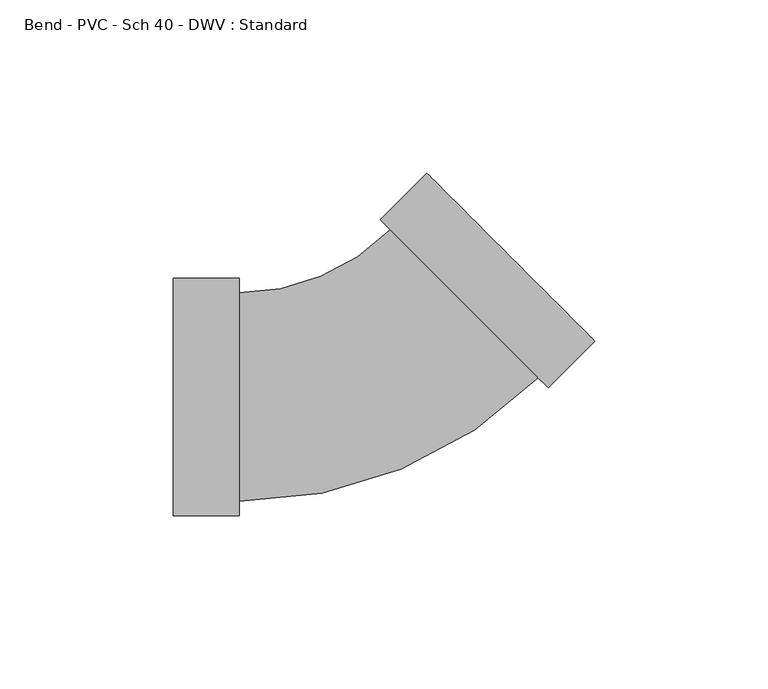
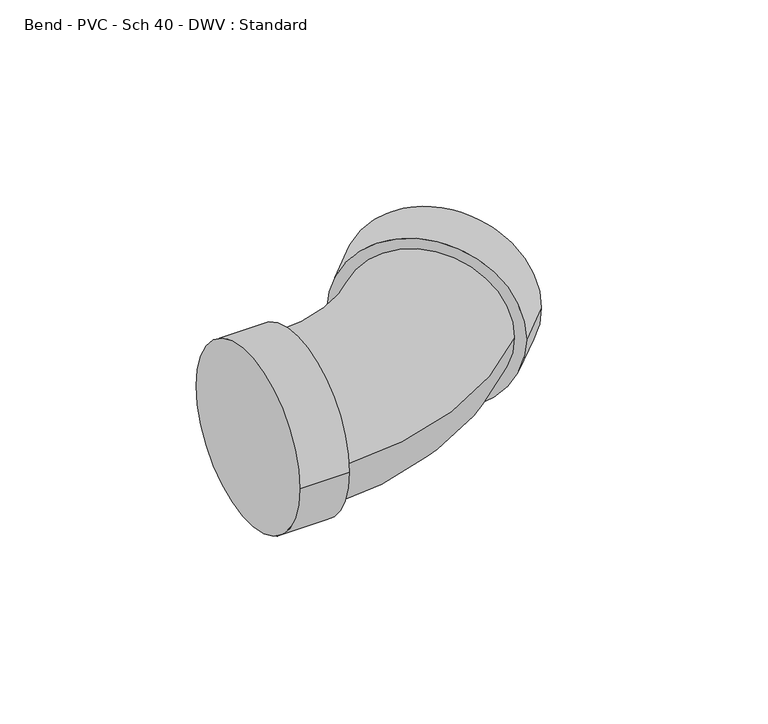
"""IFC4 building model written with IfcOpenShell, lengths in millimetres: pipe fitting geometry, Bend - PVC - Sch 40 - DWV : Standard."""

from ifc_helpers import new_model, si_unit, point, frame, origin, place, context, project, spatial, circle_curve, ellipse_curve, trimmed, source, transform, mapped, element, save
from ifc_brep_helpers import plane_surface, cylinder_surface, revolved_surface, advanced_brep


def bend_pvc_sch_40_dwv_standard_9bd3ec68(model_context):
    return source(origin(), model_context, "Body", "AdvancedBrep", [
        advanced_brep(
        [(-57.15, -34.3154, 0.0), (-57.15, 34.3154, 0.0), (-38.1, -34.3154, 0.0), (-38.1, 34.3154, 0.0), (-38.1, -30.1625, 0.0), (-38.1, 30.1625, 0.0), (5.6139734, 48.2687239, 0.0), (48.2690293, 5.6113467, 0.0), (51.2054932, 2.6747231, 0.0), (2.6775096, 51.2053476, 0.0), (64.6762439, 16.1447407, 0.0), (16.1482603, 64.6753652, 0.0)],
        [
            (0, 1, circle_curve(frame((-57.15, 0.0, 0.0), z_axis=(-1.0, 0.0, 0.0), x_axis=(0.0, 1.0, 0.0)), 34.3154)),
            (1, 0, circle_curve(frame((-57.15, 0.0, 0.0), z_axis=(-1.0, 0.0, 0.0), x_axis=(0.0, 1.0, 0.0)), 34.3154)),
            (2, 3, circle_curve(frame((-38.1, 0.0, 0.0), z_axis=(1.0, 0.0, 0.0), x_axis=(0.0, 1.0, 0.0)), 34.3154)),
            (3, 2, circle_curve(frame((-38.1, 0.0, 0.0), z_axis=(1.0, 0.0, 0.0), x_axis=(0.0, 1.0, 0.0)), 34.3154)),
            (4, 5, circle_curve(frame((-38.1, 0.0, 0.0), z_axis=(-1.0, 0.0, 0.0), x_axis=(0.0, 1.0, 0.0)), 30.1625)),
            (5, 4, circle_curve(frame((-38.1, 0.0, 0.0), z_axis=(-1.0, 0.0, 0.0), x_axis=(0.0, 1.0, 0.0)), 30.1625)),
            (0, 2),
            (3, 1),
            (6, 5, circle_curve(frame((-38.1, 91.9850762, 0.0), z_axis=(0.0, 0.0, -1.0), x_axis=(0.0, -1.0, 0.0)), 61.8225762)),
            (4, 7, circle_curve(frame((-38.1, 91.9850762, 0.0), z_axis=(0.0, 0.0, 1.0), x_axis=(0.0, -1.0, 0.0)), 122.1475762)),
            (7, 6, circle_curve(frame((26.9415014, 26.9400353, 0.0), z_axis=(-0.7071260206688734, -0.7070875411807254, 0.0), x_axis=(-0.7070875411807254, 0.7071260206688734, 0.0)), 30.1625)),
            (6, 7, circle_curve(frame((26.9415014, 26.9400353, 0.0), z_axis=(-0.7071260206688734, -0.7070875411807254, 0.0), x_axis=(-0.7070875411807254, 0.7071260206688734, 0.0)), 30.1625)),
            (8, 9, circle_curve(frame((26.9415014, 26.9400353, 0.0), z_axis=(-0.707126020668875, -0.707087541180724, 0.0), x_axis=(-0.707087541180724, 0.707126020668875, 0.0)), 34.3154)),
            (9, 8, circle_curve(frame((26.9415014, 26.9400353, 0.0), z_axis=(-0.707126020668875, -0.707087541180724, 0.0), x_axis=(-0.707087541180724, 0.707126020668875, 0.0)), 34.3154)),
            (10, 11, circle_curve(frame((40.4122521, 40.410053, 0.0), z_axis=(0.707126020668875, 0.707087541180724, 0.0), x_axis=(-0.707087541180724, 0.707126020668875, 0.0)), 34.3154)),
            (11, 10, circle_curve(frame((40.4122521, 40.410053, 0.0), z_axis=(0.707126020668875, 0.707087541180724, 0.0), x_axis=(-0.707087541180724, 0.707126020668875, 0.0)), 34.3154)),
            (8, 10),
            (11, 9),
        ],
        [
            plane_surface(frame((-57.15, 0.0, 0.0), z_axis=(-1.0, 0.0, 0.0), x_axis=(0.0, 0.0, 1.0))),
            plane_surface(frame((-38.1, 0.0, 0.0), z_axis=(1.0, 0.0, 0.0), x_axis=(0.0, 0.0, 1.0))),
            cylinder_surface(frame((-57.15, 0.0, 0.0), z_axis=(-1.0, 0.0, 0.0), x_axis=(0.0, 1.0, 0.0)), 34.3154),
            revolved_surface(trimmed(ellipse_curve(frame((-38.1, 0.0, 0.0), z_axis=(-1.0, 0.0, 0.0), x_axis=(0.0, 1.0, 0.0)), 30.1625, 30.1625), [point((-38.1, -30.1625, 0.0))], [point((-38.1, 30.1625, 0.0))], True, "CARTESIAN"), (-38.1, 91.9850762, 0.0), (0.0, 0.0, 1.0)),
            revolved_surface(trimmed(ellipse_curve(frame((-38.1, 0.0, 0.0), z_axis=(-1.0, 0.0, 0.0), x_axis=(0.0, 1.0, 0.0)), 30.1625, 30.1625), [point((-38.1, 30.1625, 0.0))], [point((-38.1, -30.1625, 0.0))], True, "CARTESIAN"), (-38.1, 91.9850762, 0.0), (0.0, 0.0, 1.0)),
            plane_surface(frame((26.9415014, 26.9400353, 0.0), z_axis=(-0.707126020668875, -0.707087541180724, 0.0), x_axis=(0.0, 0.0, 1.0))),
            plane_surface(frame((40.4122521, 40.410053, 0.0), z_axis=(0.707126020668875, 0.707087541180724, 0.0), x_axis=(0.0, 0.0, 1.0))),
            cylinder_surface(frame((26.9415014, 26.9400353, 0.0), z_axis=(-0.707126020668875, -0.707087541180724, 0.0), x_axis=(-0.707087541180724, 0.707126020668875, 0.0)), 34.3154),
        ],
        [
            (0, [[1, 2]]),
            (1, [[3, 4], [5, 6]]),
            (2, [[-1, 7, -4, 8]]),
            (2, [[-2, -8, -3, -7]]),
            (3, [[9, -5, 10, 11]]),
            (4, [[-9, 12, -10, -6]]),
            (5, [[13, 14], [-11, -12]]),
            (6, [[15, 16]]),
            (7, [[-13, 17, -16, 18]]),
            (7, [[-14, -18, -15, -17]]),
        ],
    ),
    ])


if __name__ == "__main__":
    model = new_model("IFC4")
    model_context = context("Model", 3, world=origin())
    ifc_project = project(units=[si_unit("LENGTHUNIT", "METRE", prefix="MILLI")], contexts=[model_context])
    site = spatial("IfcSite", under=ifc_project)
    building = spatial("IfcBuilding", under=site)
    placement = place(None, origin())
    bend_pvc_sch_40_dwv_standard_shape = bend_pvc_sch_40_dwv_standard_9bd3ec68(model_context)
    element("IfcPipeFitting", 1, ObjectType="Bend - PVC - Sch 40 - DWV : Standard", at=placement, inside=building, context=model_context, shape_type="MappedRepresentation", body=[
        mapped(bend_pvc_sch_40_dwv_standard_shape, transform((0.0, 0.0, 0.0), x_axis=(1.0, 0.0, 0.0), y_axis=(0.0, 1.0, 0.0), z_axis=(0.0, 0.0, 1.0))),
    ])
    save(model, "model.ifc")
